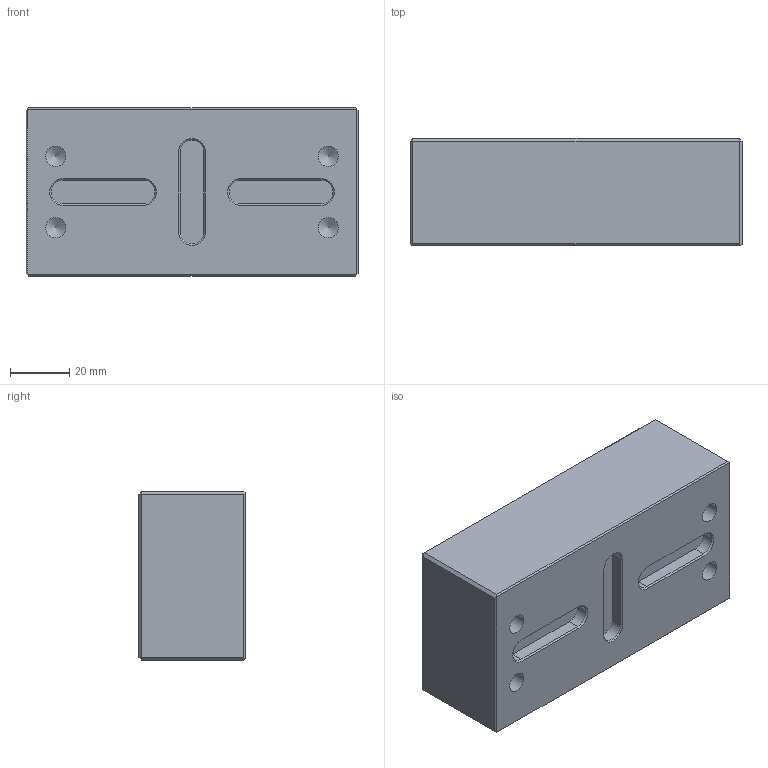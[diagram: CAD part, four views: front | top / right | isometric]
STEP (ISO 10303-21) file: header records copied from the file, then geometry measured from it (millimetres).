
FILE_DESCRIPTION (( 'STEP AP214' ), '1' );
FILE_NAME ('49779.STEP', '2020-03-30T08:42:35', ( '' ), ( '' ), 'SwSTEP 2.0', 'SolidWorks 2019', '' );
FILE_SCHEMA (( 'AUTOMOTIVE_DESIGN' ));
Length unit declared in the file: millimetre
Products named in the file (1): 49779
Bounding box: 112 x 36 x 57 mm (x, y, z)
Volume: 223932.2 mm3; surface area: 26687.3 mm2
Topology: 1 solids, 1 shells, 57 faces, 124 edges, 72 vertices
Faces by surface type: plane 37, cylinder 10, cone 10
Full cylindrical faces by diameter (mm): 6.8 x4
Entity records: 1510 total; most frequent: DIRECTION 254, CARTESIAN_POINT 238, ORIENTED_EDGE 224, EDGE_CURVE 112, LINE 86, VECTOR 86, AXIS2_PLACEMENT_3D 84, EDGE_LOOP 68
